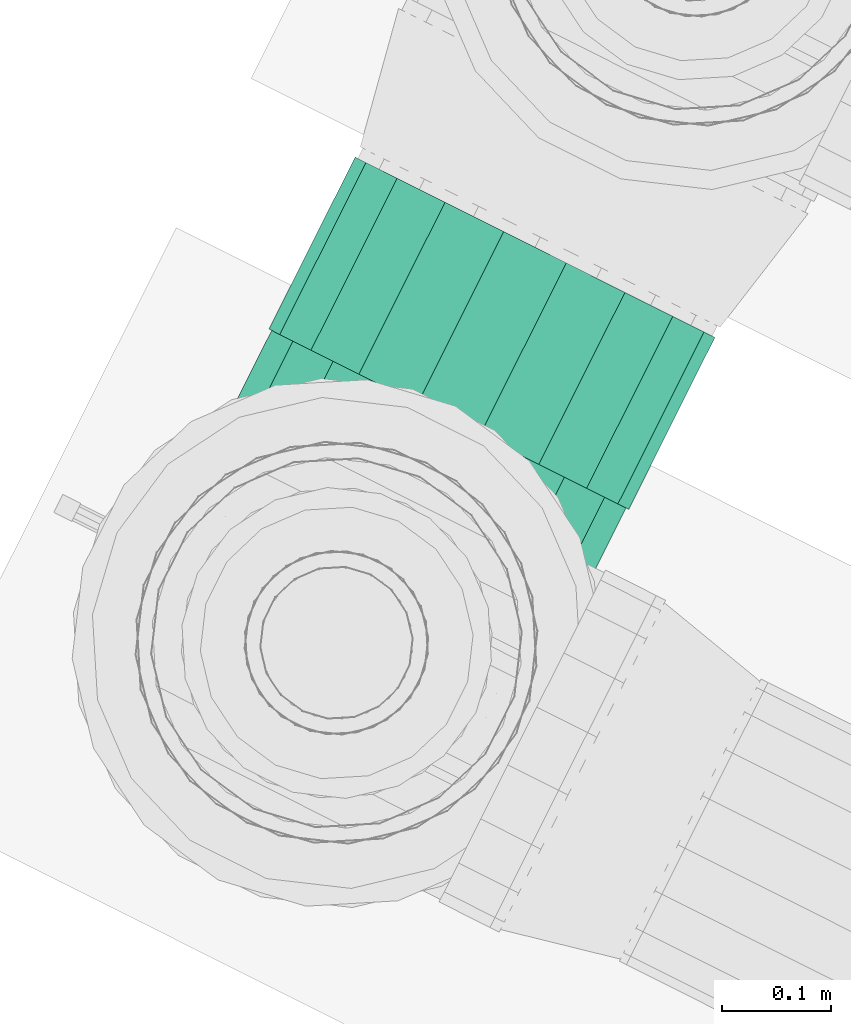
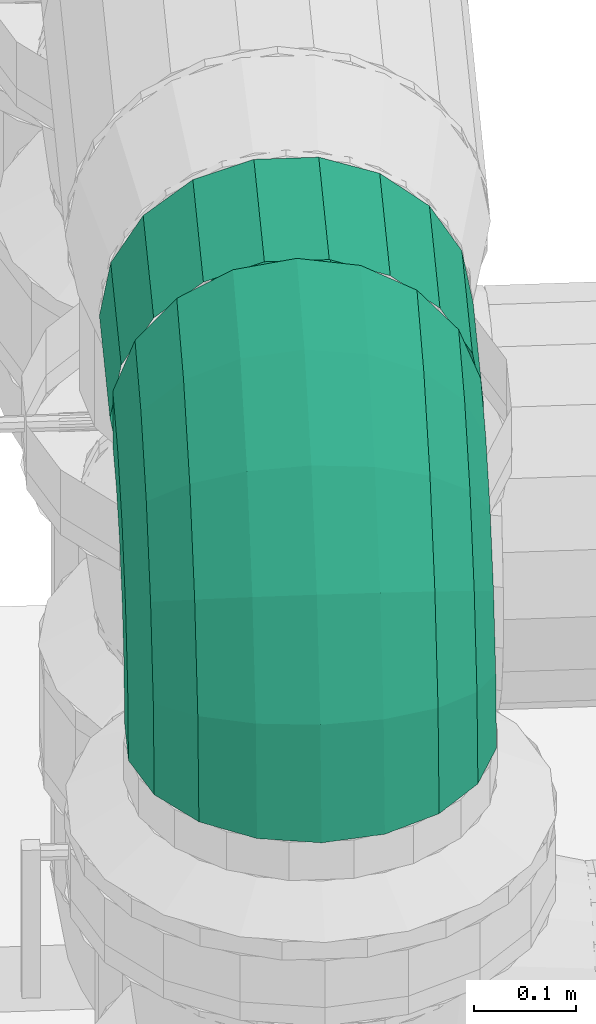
# One storey, part 94 of 152: 2 flow segments.
"""IFC2X3 building model written with IfcOpenShell, lengths in metres."""

from ifc_helpers import new_model, si_unit, derived_unit, direction, frame, origin, place, context, subcontext, project, spatial, face_set, surface_model, source, transform, mapped, material, type_object, type_shapes, element, save


model = new_model("IFC2X3")

# Units and contexts
model_context = context("Model", 3, precision=5.2338327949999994e-05, world=origin(), true_north=direction((0.0, 1.0)))
body_context = subcontext(model_context, "Body", "Model", "MODEL_VIEW")
ifc_project = project(units=[si_unit("LENGTHUNIT", "METRE"), si_unit("AREAUNIT", "SQUARE_METRE"), si_unit("VOLUMEUNIT", "CUBIC_METRE"), si_unit("MASSUNIT", "GRAM", prefix="KILO"), si_unit("PLANEANGLEUNIT", "RADIAN"), derived_unit("THERMALTRANSMITTANCEUNIT", [(si_unit("MASSUNIT", "GRAM", prefix="KILO"), 1), (si_unit("THERMODYNAMICTEMPERATUREUNIT", "KELVIN"), -1), (si_unit("TIMEUNIT", "SECOND"), -3)])], contexts=[model_context])

# Site, building, storey
site_placement = place(None, frame((0.0, 0.0, 0.0), z_axis=(0.0, 0.0, 1.0), x_axis=(0.8939966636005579, -0.4480736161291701, 0.0)))
site = spatial("IfcSite", under=ifc_project, at=site_placement, Name="Default", CompositionType="ELEMENT")
building_placement = place(site_placement, origin())
building = spatial("IfcBuilding", under=site, at=building_placement, CompositionType="ELEMENT")
storey_placement = place(building_placement, frame((0.0, 0.0, 2.7499999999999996)))
storey = spatial("IfcBuildingStorey", under=building, at=storey_placement, Name="1. Obergeschoss", CompositionType="ELEMENT", Elevation=2.7499999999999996)

# Flow segments
ifc_material = material(Name="IfcSurfaceStyle #9317")
distribution_element_type_1 = type_object("IfcDistributionElementType", Name="Rohrbogen 220246:Rohrbogen 220246", material=ifc_material)
shared_shape_1 = source(origin(), body_context, "Body", "SurfaceModel", [
    surface_model("IfcFaceBasedSurfaceModel", [(9.625770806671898, 5.772637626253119, 4.693306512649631), (9.654551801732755, 5.777712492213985, 4.693306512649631), (9.654551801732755, 5.792790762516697, 4.788506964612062), (9.625770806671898, 5.787964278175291, 4.790075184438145), (9.654551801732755, 5.836549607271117, 4.874388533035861), (9.6257708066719, 5.832443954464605, 4.8773714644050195), (9.654551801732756, 5.904705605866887, 4.942544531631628), (9.625770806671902, 5.901722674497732, 4.946650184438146), (9.65455180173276, 5.990587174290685, 4.986303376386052), (9.625770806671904, 5.989018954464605, 4.991129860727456), (9.654551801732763, 6.085787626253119, 5.001381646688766), (9.625770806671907, 6.085787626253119, 5.006456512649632), (9.67986138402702, 5.792324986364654, 4.693306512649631), (9.679861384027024, 5.806688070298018, 4.7839914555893), (9.67986138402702, 5.848371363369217, 4.865799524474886), (9.679861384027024, 5.913294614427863, 4.930722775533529), (9.679861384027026, 5.995102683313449, 4.972406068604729), (9.67986138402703, 6.085787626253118, 4.986769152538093), (9.698646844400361, 5.814712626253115, 4.693306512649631), (9.698646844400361, 5.827979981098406, 4.777073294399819), (9.698646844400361, 5.866483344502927, 4.852640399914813), (9.698646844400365, 5.926453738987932, 4.9126107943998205), (9.698646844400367, 6.002020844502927, 4.951114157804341), (9.69864684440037, 6.085787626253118, 4.9643815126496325), (9.708642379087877, 5.842175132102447, 4.693306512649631), (9.708642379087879, 5.854098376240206, 4.7685869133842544), (9.70864237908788, 5.888700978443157, 4.836498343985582), (9.70864237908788, 5.942595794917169, 4.890393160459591), (9.708642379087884, 6.010507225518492, 4.924995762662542), (9.708642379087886, 6.0857876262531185, 4.936919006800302), (9.70864237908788, 5.871400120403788, 4.693306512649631), (9.70864237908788, 5.881892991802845, 4.759555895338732), (9.708642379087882, 5.912344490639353, 4.8193203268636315), (9.708642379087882, 5.959773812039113, 4.866749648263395), (9.708642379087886, 6.019538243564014, 4.897201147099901), (9.708642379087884, 6.085787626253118, 4.90769401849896), (9.698646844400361, 5.898862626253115, 4.693306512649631), (9.698646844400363, 5.908011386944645, 4.751069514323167), (9.698646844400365, 5.934562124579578, 4.803178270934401), (9.698646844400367, 5.975915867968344, 4.844532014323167), (9.698646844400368, 6.028024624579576, 4.8710827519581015), (9.698646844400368, 6.085787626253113, 4.880231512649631), (9.679861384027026, 5.92125026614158, 4.693306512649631), (9.679861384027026, 5.929303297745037, 4.744151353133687), (9.679861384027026, 5.952674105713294, 4.790019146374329), (9.67986138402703, 5.989074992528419, 4.826420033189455), (9.67986138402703, 6.034942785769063, 4.849790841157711), (9.67986138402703, 6.0857876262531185, 4.857843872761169), (9.654551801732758, 5.9358627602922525, 4.693306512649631), (9.65455180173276, 5.943200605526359, 4.739635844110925), (9.654551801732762, 5.9644958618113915, 4.781430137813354), (9.654551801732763, 5.997664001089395, 4.814598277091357), (9.654551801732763, 6.039458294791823, 4.8358935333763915), (9.654551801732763, 6.0857876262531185, 4.843231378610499), (9.625770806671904, 5.94093762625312, 4.693306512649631), (9.625770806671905, 5.948027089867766, 4.738067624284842), (9.625770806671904, 5.96860151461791, 4.778447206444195), (9.625770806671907, 6.000646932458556, 4.81049262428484), (9.625770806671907, 6.0410265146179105, 4.831067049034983), (9.625770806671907, 6.08578762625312, 4.83815651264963), (9.59698981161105, 5.935862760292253, 4.693306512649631), (9.59698981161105, 5.943200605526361, 4.739635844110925), (9.596989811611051, 5.964495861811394, 4.781430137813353), (9.596989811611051, 5.997664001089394, 4.814598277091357), (9.596989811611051, 6.039458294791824, 4.83589353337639), (9.596989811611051, 6.085787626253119, 4.843231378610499), (9.571680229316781, 5.921250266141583, 4.69330651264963), (9.571680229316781, 5.929303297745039, 4.744151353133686), (9.571680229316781, 5.952674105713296, 4.790019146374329), (9.571680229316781, 5.9890749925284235, 4.826420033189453), (9.571680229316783, 6.034942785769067, 4.849790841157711), (9.571680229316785, 6.08578762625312, 4.857843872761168), (9.55289476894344, 5.898862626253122, 4.69330651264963), (9.55289476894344, 5.908011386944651, 4.7510695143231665), (9.552894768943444, 5.934562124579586, 4.803178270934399), (9.552894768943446, 5.975915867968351, 4.844532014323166), (9.552894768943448, 6.028024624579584, 4.871082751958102), (9.552894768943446, 6.085787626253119, 4.880231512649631), (9.542899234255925, 5.871400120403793, 4.69330651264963), (9.542899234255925, 5.881892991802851, 4.759555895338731), (9.542899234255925, 5.9123444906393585, 4.8193203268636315), (9.542899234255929, 5.959773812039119, 4.866749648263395), (9.542899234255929, 6.019538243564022, 4.897201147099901), (9.54289923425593, 6.085787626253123, 4.907694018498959), (9.54289923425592, 5.842175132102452, 4.69330651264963), (9.542899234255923, 5.85409837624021, 4.7685869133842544), (9.542899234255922, 5.888700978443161, 4.836498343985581), (9.542899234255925, 5.942595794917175, 4.89039316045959), (9.542899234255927, 6.010507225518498, 4.924995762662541), (9.542899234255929, 6.085787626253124, 4.9369190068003), (9.55289476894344, 5.8147126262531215, 4.69330651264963), (9.55289476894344, 5.827979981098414, 4.777073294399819), (9.55289476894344, 5.866483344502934, 4.852640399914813), (9.552894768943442, 5.926453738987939, 4.91261079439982), (9.552894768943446, 6.002020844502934, 4.951114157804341), (9.552894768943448, 6.085787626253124, 4.964381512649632), (9.571680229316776, 5.792324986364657, 4.693306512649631), (9.571680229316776, 5.806688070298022, 4.7839914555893), (9.57168022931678, 5.84837136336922, 4.865799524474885), (9.571680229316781, 5.913294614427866, 4.930722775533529), (9.571680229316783, 5.995102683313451, 4.9724060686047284), (9.571680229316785, 6.085787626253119, 4.986769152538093), (9.596989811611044, 5.777712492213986, 4.693306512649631), (9.596989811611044, 5.792790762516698, 4.788506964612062), (9.596989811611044, 5.83654960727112, 4.8743885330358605), (9.596989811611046, 5.904705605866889, 4.94254453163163), (9.59698981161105, 5.9905871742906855, 4.986303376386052), (9.596989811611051, 6.085787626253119, 5.001381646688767), (9.625770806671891, 5.672637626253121, 4.693306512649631), (9.688753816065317, 5.683743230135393, 4.693306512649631), (9.688753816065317, 5.703420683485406, 4.81754506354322), (9.625770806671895, 5.692858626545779, 4.82097688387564), (9.688753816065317, 5.760526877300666, 4.929622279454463), (9.625770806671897, 5.7515422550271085, 4.936149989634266), (9.688753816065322, 5.849471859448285, 5.018567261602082), (9.6257708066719, 5.842944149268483, 5.027551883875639), (9.688753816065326, 5.961549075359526, 5.075673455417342), (9.625770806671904, 5.95811725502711, 5.086235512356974), (9.68875381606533, 6.085787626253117, 5.095350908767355), (9.625770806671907, 6.085787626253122, 5.106456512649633), (9.744140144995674, 5.715720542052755, 4.693306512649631), (9.744140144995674, 5.733832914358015, 4.807663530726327), (9.744140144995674, 5.78639706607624, 4.910826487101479), (9.744140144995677, 5.868267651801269, 4.992697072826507), (9.74414014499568, 5.971430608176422, 5.045261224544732), (9.744140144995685, 6.0857876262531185, 5.063373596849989), (9.785249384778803, 5.7647126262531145, 4.693306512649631), (9.785249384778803, 5.780427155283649, 4.792524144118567), (9.785249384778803, 5.826032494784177, 4.882029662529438), (9.785249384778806, 5.8970644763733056, 4.953061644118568), (9.78524938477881, 5.986569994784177, 4.998666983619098), (9.785249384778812, 6.085787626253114, 5.014381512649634), (9.807123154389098, 5.824810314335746, 4.693306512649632), (9.807123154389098, 5.837583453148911, 4.773952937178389), (9.807123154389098, 5.874652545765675, 4.846705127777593), (9.807123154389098, 5.932389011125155, 4.904441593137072), (9.807123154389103, 6.005141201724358, 4.941510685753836), (9.807123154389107, 6.085787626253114, 4.954283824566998), (9.807123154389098, 5.88876493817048, 4.693306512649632), (9.8071231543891, 5.898407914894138, 4.7541898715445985), (9.8071231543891, 5.926392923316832, 4.809113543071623), (9.807123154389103, 5.969980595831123, 4.852701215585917), (9.807123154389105, 6.0249042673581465, 4.880686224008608), (9.807123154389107, 6.085787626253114, 4.890329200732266), (9.785249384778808, 5.948862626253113, 4.693306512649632), (9.78524938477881, 5.955564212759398, 4.73561866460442), (9.785249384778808, 5.975012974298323, 4.7737890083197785), (9.785249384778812, 6.005305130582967, 4.80408116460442), (9.785249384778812, 6.043475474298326, 4.823529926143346), (9.785249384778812, 6.085787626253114, 4.830231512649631), (9.744140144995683, 5.997854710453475, 4.693306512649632), (9.744140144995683, 6.002158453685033, 4.720479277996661), (9.744140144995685, 6.014648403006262, 4.744992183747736), (9.744140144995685, 6.034101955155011, 4.76444573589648), (9.744140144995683, 6.058614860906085, 4.776935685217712), (9.744140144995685, 6.085787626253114, 4.781239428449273), (9.68875381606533, 6.02983202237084, 4.693306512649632), (9.68875381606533, 6.032570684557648, 4.710597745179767), (9.688753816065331, 6.04051859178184, 4.726196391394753), (9.688753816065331, 6.052897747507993, 4.738575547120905), (9.688753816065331, 6.068496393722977, 4.746523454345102), (9.68875381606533, 6.085787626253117, 4.749262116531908), (9.625770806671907, 6.040937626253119, 4.693306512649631), (9.625770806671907, 6.043132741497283, 4.707165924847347), (9.625770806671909, 6.049503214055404, 4.719668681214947), (9.625770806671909, 6.059425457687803, 4.729590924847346), (9.62577080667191, 6.071928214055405, 4.735961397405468), (9.625770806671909, 6.085787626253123, 4.73815651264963), (9.562787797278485, 6.029832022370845, 4.693306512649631), (9.562787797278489, 6.032570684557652, 4.710597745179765), (9.562787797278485, 6.0405185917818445, 4.726196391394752), (9.562787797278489, 6.0528977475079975, 4.738575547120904), (9.562787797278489, 6.068496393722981, 4.746523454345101), (9.562787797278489, 6.085787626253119, 4.749262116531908), (9.507401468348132, 5.997854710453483, 4.69330651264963), (9.507401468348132, 6.002158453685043, 4.72047927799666), (9.507401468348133, 6.014648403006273, 4.744992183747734), (9.507401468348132, 6.034101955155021, 4.764445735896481), (9.507401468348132, 6.058614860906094, 4.77693568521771), (9.507401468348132, 6.085787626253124, 4.781239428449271), (9.466292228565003, 5.948862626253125, 4.69330651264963), (9.466292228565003, 5.95556421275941, 4.735618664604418), (9.466292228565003, 5.975012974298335, 4.773789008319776), (9.466292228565, 6.005305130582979, 4.804081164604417), (9.466292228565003, 6.043475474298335, 4.823529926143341), (9.466292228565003, 6.085787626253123, 4.830231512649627), (9.444418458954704, 5.8887649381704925, 4.693306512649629), (9.444418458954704, 5.8984079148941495, 4.754189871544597), (9.444418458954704, 5.926392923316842, 4.809113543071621), (9.444418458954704, 5.969980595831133, 4.852701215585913), (9.44441845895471, 6.02490426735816, 4.880686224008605), (9.44441845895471, 6.085787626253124, 4.890329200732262), (9.444418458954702, 5.824810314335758, 4.69330651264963), (9.444418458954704, 5.837583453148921, 4.773952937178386), (9.444418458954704, 5.874652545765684, 4.84670512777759), (9.444418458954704, 5.932389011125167, 4.904441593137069), (9.444418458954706, 6.005141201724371, 4.9415106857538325), (9.44441845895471, 6.085787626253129, 4.954283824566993), (9.466292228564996, 5.764712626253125, 4.69330651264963), (9.466292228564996, 5.78042715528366, 4.792524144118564), (9.466292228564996, 5.8260324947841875, 4.882029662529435), (9.466292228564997, 5.897064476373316, 4.953061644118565), (9.466292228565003, 5.986569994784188, 4.9986669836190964), (9.466292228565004, 6.085787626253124, 5.01438151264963), (9.507401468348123, 5.715720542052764, 4.693306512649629), (9.507401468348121, 5.7338329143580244, 4.807663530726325), (9.507401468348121, 5.7863970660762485, 4.910826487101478), (9.507401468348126, 5.868267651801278, 4.9926970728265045), (9.50740146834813, 5.971430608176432, 5.0452612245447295), (9.507401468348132, 6.085787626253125, 5.0633735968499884), (9.562787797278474, 5.683743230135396, 4.69330651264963), (9.562787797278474, 5.70342068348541, 4.817545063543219), (9.562787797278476, 5.760526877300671, 4.929622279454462), (9.56278779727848, 5.84947185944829, 5.018567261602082), (9.562787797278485, 5.961549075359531, 5.075673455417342), (9.562787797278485, 6.085787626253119, 5.095350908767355)], [face_set([[[0, 1, 2, 3]], [[3, 2, 4, 5]], [[5, 4, 6, 7]], [[7, 6, 8, 9]], [[9, 8, 10, 11]], [[1, 12, 13, 2]], [[2, 13, 14, 4]], [[4, 14, 15, 6]], [[6, 15, 16, 8]], [[8, 16, 17, 10]], [[12, 18, 19, 13]], [[13, 19, 20, 14]], [[14, 20, 21, 15]], [[15, 21, 22, 16]], [[16, 22, 23, 17]], [[18, 24, 25, 19]], [[19, 25, 26, 20]], [[20, 26, 27, 21]], [[21, 27, 28, 22]], [[22, 28, 29, 23]], [[24, 30, 31, 25]], [[25, 31, 32, 26]], [[26, 32, 33, 27]], [[27, 33, 34, 28]], [[28, 34, 35, 29]], [[30, 36, 37, 31]], [[31, 37, 38, 32]], [[32, 38, 39, 33]], [[33, 39, 40, 34]], [[34, 40, 41, 35]], [[36, 42, 43, 37]], [[37, 43, 44, 38]], [[38, 44, 45, 39]], [[39, 45, 46, 40]], [[40, 46, 47, 41]], [[42, 48, 49, 43]], [[43, 49, 50, 44]], [[44, 50, 51, 45]], [[45, 51, 52, 46]], [[46, 52, 53, 47]], [[48, 54, 55, 49]], [[49, 55, 56, 50]], [[50, 56, 57, 51]], [[51, 57, 58, 52]], [[52, 58, 59, 53]], [[54, 60, 61, 55]], [[55, 61, 62, 56]], [[56, 62, 63, 57]], [[57, 63, 64, 58]], [[58, 64, 65, 59]], [[60, 66, 67, 61]], [[61, 67, 68, 62]], [[62, 68, 69, 63]], [[63, 69, 70, 64]], [[64, 70, 71, 65]], [[66, 72, 73, 67]], [[67, 73, 74, 68]], [[68, 74, 75, 69]], [[69, 75, 76, 70]], [[70, 76, 77, 71]], [[72, 78, 79, 73]], [[73, 79, 80, 74]], [[74, 80, 81, 75]], [[75, 81, 82, 76]], [[76, 82, 83, 77]], [[78, 84, 85, 79]], [[79, 85, 86, 80]], [[80, 86, 87, 81]], [[81, 87, 88, 82]], [[82, 88, 89, 83]], [[84, 90, 91, 85]], [[85, 91, 92, 86]], [[86, 92, 93, 87]], [[87, 93, 94, 88]], [[88, 94, 95, 89]], [[90, 96, 97, 91]], [[91, 97, 98, 92]], [[92, 98, 99, 93]], [[93, 99, 100, 94]], [[94, 100, 101, 95]], [[96, 102, 103, 97]], [[97, 103, 104, 98]], [[98, 104, 105, 99]], [[99, 105, 106, 100]], [[100, 106, 107, 101]], [[102, 0, 3, 103]], [[103, 3, 5, 104]], [[104, 5, 7, 105]], [[105, 7, 9, 106]], [[106, 9, 11, 107]], [[108, 109, 110, 111]], [[111, 110, 112, 113]], [[113, 112, 114, 115]], [[115, 114, 116, 117]], [[117, 116, 118, 119]], [[109, 120, 121, 110]], [[110, 121, 122, 112]], [[112, 122, 123, 114]], [[114, 123, 124, 116]], [[116, 124, 125, 118]], [[120, 126, 127, 121]], [[121, 127, 128, 122]], [[122, 128, 129, 123]], [[123, 129, 130, 124]], [[124, 130, 131, 125]], [[126, 132, 133, 127]], [[127, 133, 134, 128]], [[128, 134, 135, 129]], [[129, 135, 136, 130]], [[130, 136, 137, 131]], [[132, 138, 139, 133]], [[133, 139, 140, 134]], [[134, 140, 141, 135]], [[135, 141, 142, 136]], [[136, 142, 143, 137]], [[138, 144, 145, 139]], [[139, 145, 146, 140]], [[140, 146, 147, 141]], [[141, 147, 148, 142]], [[142, 148, 149, 143]], [[144, 150, 151, 145]], [[145, 151, 152, 146]], [[146, 152, 153, 147]], [[147, 153, 154, 148]], [[148, 154, 155, 149]], [[150, 156, 157, 151]], [[151, 157, 158, 152]], [[152, 158, 159, 153]], [[153, 159, 160, 154]], [[154, 160, 161, 155]], [[156, 162, 163, 157]], [[157, 163, 164, 158]], [[158, 164, 165, 159]], [[159, 165, 166, 160]], [[160, 166, 167, 161]], [[162, 168, 169, 163]], [[163, 169, 170, 164]], [[164, 170, 171, 165]], [[165, 171, 172, 166]], [[166, 172, 173, 167]], [[168, 174, 175, 169]], [[169, 175, 176, 170]], [[170, 176, 177, 171]], [[171, 177, 178, 172]], [[172, 178, 179, 173]], [[174, 180, 181, 175]], [[175, 181, 182, 176]], [[176, 182, 183, 177]], [[177, 183, 184, 178]], [[178, 184, 185, 179]], [[180, 186, 187, 181]], [[181, 187, 188, 182]], [[182, 188, 189, 183]], [[183, 189, 190, 184]], [[184, 190, 191, 185]], [[186, 192, 193, 187]], [[187, 193, 194, 188]], [[188, 194, 195, 189]], [[189, 195, 196, 190]], [[190, 196, 197, 191]], [[192, 198, 199, 193]], [[193, 199, 200, 194]], [[194, 200, 201, 195]], [[195, 201, 202, 196]], [[196, 202, 203, 197]], [[198, 204, 205, 199]], [[199, 205, 206, 200]], [[200, 206, 207, 201]], [[201, 207, 208, 202]], [[202, 208, 209, 203]], [[204, 210, 211, 205]], [[205, 211, 212, 206]], [[206, 212, 213, 207]], [[207, 213, 214, 208]], [[208, 214, 215, 209]], [[210, 108, 111, 211]], [[211, 111, 113, 212]], [[212, 113, 115, 213]], [[213, 115, 117, 214]], [[214, 117, 119, 215]]])]),
])
type_shapes(distribution_element_type_1, [shared_shape_1])
flow_segment_1_placement = place(storey_placement, frame((0.0, 0.0, -2.7499999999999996)))
element("IfcFlowSegment", 1, at=flow_segment_1_placement, inside=storey, type_object=distribution_element_type_1, material=ifc_material, Name="Rohrbogen", ObjectType="Rohrbogen", context=body_context, shape_type="MappedRepresentation", body=[
    mapped(shared_shape_1, transform((0.0, 0.0, 0.0), scale=1.0)),
])
distribution_element_type_2 = type_object("IfcDistributionElementType", Name="Stahlrohr nach DIN 2448 220585:Stahlrohr nach DIN 2448 220585", material=ifc_material)
shared_shape_2 = source(origin(), body_context, "Body", "SurfaceModel", [
    surface_model("IfcFaceBasedSurfaceModel", [(9.541620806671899, 6.085787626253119, 4.922306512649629), (9.546695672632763, 6.085787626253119, 4.951087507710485), (9.546695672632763, 6.26178762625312, 4.9510875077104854), (9.541620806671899, 6.26178762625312, 4.922306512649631), (9.561308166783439, 6.085787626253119, 4.97639709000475), (9.561308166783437, 6.26178762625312, 4.9763970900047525), (9.5836958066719, 6.085787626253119, 4.9951825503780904), (9.5836958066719, 6.26178762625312, 4.9951825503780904), (9.61115831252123, 6.085787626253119, 5.005178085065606), (9.611158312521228, 6.26178762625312, 5.005178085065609), (9.640383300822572, 6.085787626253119, 5.005178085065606), (9.64038330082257, 6.26178762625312, 5.005178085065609), (9.667845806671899, 6.085787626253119, 4.99518255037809), (9.667845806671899, 6.26178762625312, 4.99518255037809), (9.690233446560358, 6.085787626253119, 4.976397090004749), (9.69023344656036, 6.26178762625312, 4.976397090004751), (9.704845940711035, 6.085787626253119, 4.951087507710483), (9.704845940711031, 6.26178762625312, 4.9510875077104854), (9.7099208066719, 6.085787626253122, 4.9223065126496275), (9.709920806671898, 6.26178762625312, 4.92230651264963), (9.704845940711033, 6.085787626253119, 4.893525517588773), (9.704845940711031, 6.26178762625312, 4.893525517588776), (9.69023344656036, 6.085787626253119, 4.868215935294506), (9.690233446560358, 6.26178762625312, 4.868215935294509), (9.667845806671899, 6.085787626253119, 4.849430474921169), (9.6678458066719, 6.26178762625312, 4.849430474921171), (9.64038330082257, 6.085787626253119, 4.839434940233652), (9.64038330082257, 6.26178762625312, 4.839434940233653), (9.61115831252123, 6.085787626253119, 4.839434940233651), (9.61115831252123, 6.26178762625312, 4.8394349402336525), (9.5836958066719, 6.085787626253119, 4.849430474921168), (9.583695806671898, 6.26178762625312, 4.849430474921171), (9.561308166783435, 6.085787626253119, 4.868215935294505), (9.561308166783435, 6.26178762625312, 4.868215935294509), (9.546695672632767, 6.085787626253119, 4.893525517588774), (9.546695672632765, 6.26178762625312, 4.893525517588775), (9.441620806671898, 6.085787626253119, 4.92230651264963), (9.452726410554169, 6.085787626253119, 4.985289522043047), (9.452726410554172, 6.26178762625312, 4.985289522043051), (9.441620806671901, 6.26178762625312, 4.92230651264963), (9.484703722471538, 6.085787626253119, 5.040675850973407), (9.484703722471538, 6.26178762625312, 5.0406758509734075), (9.5336958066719, 6.085787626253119, 5.081785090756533), (9.533695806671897, 6.26178762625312, 5.081785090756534), (9.593793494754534, 6.085787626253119, 5.103658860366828), (9.593793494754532, 6.26178762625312, 5.10365886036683), (9.657748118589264, 6.085787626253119, 5.103658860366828), (9.657748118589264, 6.26178762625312, 5.103658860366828), (9.7178458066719, 6.085787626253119, 5.081785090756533), (9.7178458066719, 6.26178762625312, 5.081785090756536), (9.766837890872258, 6.085787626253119, 5.040675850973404), (9.766837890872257, 6.26178762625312, 5.040675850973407), (9.798815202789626, 6.085787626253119, 4.98528952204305), (9.798815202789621, 6.26178762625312, 4.985289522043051), (9.8099208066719, 6.085787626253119, 4.9223065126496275), (9.809920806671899, 6.26178762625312, 4.92230651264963), (9.798815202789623, 6.085787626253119, 4.859323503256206), (9.798815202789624, 6.26178762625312, 4.859323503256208), (9.766837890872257, 6.085787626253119, 4.803937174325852), (9.766837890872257, 6.26178762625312, 4.803937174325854), (9.7178458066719, 6.085787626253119, 4.762827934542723), (9.7178458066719, 6.26178762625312, 4.762827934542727), (9.657748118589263, 6.085787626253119, 4.740954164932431), (9.657748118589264, 6.26178762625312, 4.740954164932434), (9.593793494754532, 6.085787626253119, 4.740954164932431), (9.593793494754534, 6.26178762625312, 4.7409541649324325), (9.533695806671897, 6.085787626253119, 4.7628279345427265), (9.533695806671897, 6.26178762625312, 4.762827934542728), (9.484703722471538, 6.085787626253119, 4.8039371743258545), (9.484703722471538, 6.26178762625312, 4.803937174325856), (9.452726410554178, 6.085787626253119, 4.859323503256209), (9.452726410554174, 6.26178762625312, 4.859323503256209)], [face_set([[[0, 1, 2, 3]], [[1, 4, 5, 2]], [[4, 6, 7, 5]], [[6, 8, 9, 7]], [[8, 10, 11, 9]], [[10, 12, 13, 11]], [[12, 14, 15, 13]], [[14, 16, 17, 15]], [[16, 18, 19, 17]], [[18, 20, 21, 19]], [[20, 22, 23, 21]], [[22, 24, 25, 23]], [[24, 26, 27, 25]], [[26, 28, 29, 27]], [[28, 30, 31, 29]], [[30, 32, 33, 31]], [[32, 34, 35, 33]], [[34, 0, 3, 35]], [[36, 37, 38, 39]], [[37, 40, 41, 38]], [[40, 42, 43, 41]], [[42, 44, 45, 43]], [[44, 46, 47, 45]], [[46, 48, 49, 47]], [[48, 50, 51, 49]], [[50, 52, 53, 51]], [[52, 54, 55, 53]], [[54, 56, 57, 55]], [[56, 58, 59, 57]], [[58, 60, 61, 59]], [[60, 62, 63, 61]], [[62, 64, 65, 63]], [[64, 66, 67, 65]], [[66, 68, 69, 67]], [[68, 70, 71, 69]], [[70, 36, 39, 71]]])]),
])
type_shapes(distribution_element_type_2, [shared_shape_2])
flow_segment_2_placement = place(storey_placement, frame((0.0, 0.0, -2.7499999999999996)))
element("IfcFlowSegment", 2, at=flow_segment_2_placement, inside=storey, type_object=distribution_element_type_2, material=ifc_material, Name="Stahlrohr nach DIN 2448", ObjectType="Stahlrohr nach DIN 2448", context=body_context, shape_type="MappedRepresentation", body=[
    mapped(shared_shape_2, transform((0.0, 0.0, 0.0), scale=1.0)),
])

save(model, "model.ifc")
